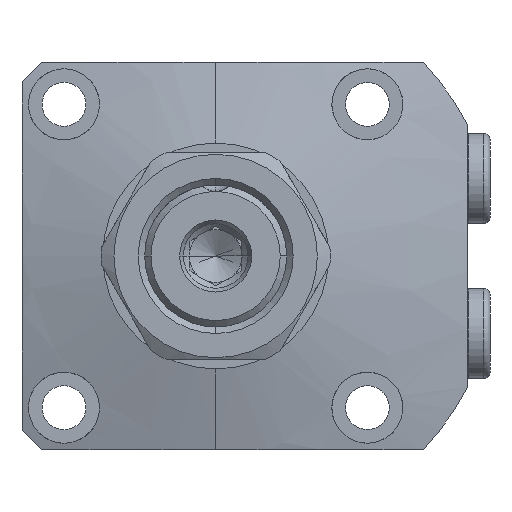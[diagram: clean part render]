
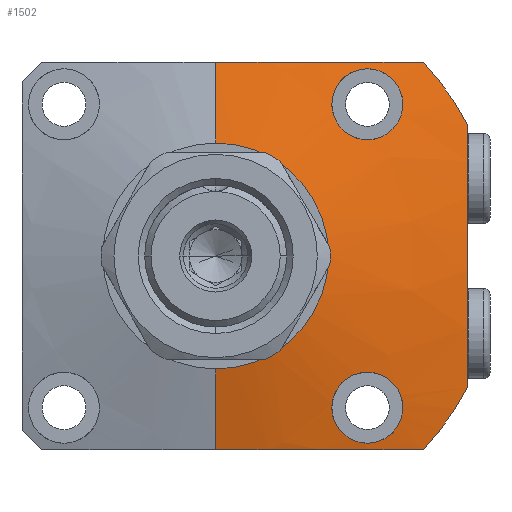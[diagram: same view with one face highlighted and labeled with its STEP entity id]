
A CAD part, left-side view. The second image highlights one B-rep face of the part: STEP entity #1502.
In plain terms, the highlighted conical face has half-angle 75 degrees and reference radius 17.5 mm.
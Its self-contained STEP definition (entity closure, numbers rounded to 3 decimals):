
#1087=FACE_BOUND('',#2114,.T.);
#1088=FACE_BOUND('',#2115,.T.);
#1089=FACE_BOUND('',#2116,.T.);
#1256=B_SPLINE_CURVE_WITH_KNOTS('',3,(#8673,#8674,#8675,#8676,#8677,#8678,
#8679,#8680,#8681,#8682),.UNSPECIFIED.,.F.,.F.,(4,2,2,2,4),(0.,0.25,0.5,
0.75,1.),.UNSPECIFIED.);
#1257=B_SPLINE_CURVE_WITH_KNOTS('',3,(#8691,#8692,#8693,#8694,#8695,#8696,
#8697,#8698,#8699,#8700),.UNSPECIFIED.,.F.,.F.,(4,2,2,2,4),(0.,0.25,0.5,
0.75,1.),.UNSPECIFIED.);
#1269=B_SPLINE_CURVE_WITH_KNOTS('',3,(#9100,#9101,#9102,#9103),
 .UNSPECIFIED.,.F.,.F.,(4,4),(0.,1.),.UNSPECIFIED.);
#1270=B_SPLINE_CURVE_WITH_KNOTS('',3,(#9104,#9105,#9106,#9107,#9108),
 .UNSPECIFIED.,.F.,.F.,(4,1,4),(0.,0.5,1.),.UNSPECIFIED.);
#1271=B_SPLINE_CURVE_WITH_KNOTS('',3,(#9109,#9110,#9111,#9112),
 .UNSPECIFIED.,.F.,.F.,(4,4),(0.,1.),.UNSPECIFIED.);
#1272=B_SPLINE_CURVE_WITH_KNOTS('',3,(#9113,#9114,#9115,#9116,#9117,#9118,
#9119,#9120,#9121,#9122),.UNSPECIFIED.,.F.,.F.,(4,2,2,2,4),(0.,0.25,0.5,
0.75,1.),.UNSPECIFIED.);
#1273=B_SPLINE_CURVE_WITH_KNOTS('',3,(#9123,#9124,#9125,#9126,#9127,#9128,
#9129,#9130,#9131,#9132),.UNSPECIFIED.,.F.,.F.,(4,2,2,2,4),(0.,0.25,0.5,
0.75,1.),.UNSPECIFIED.);
#1502=ADVANCED_FACE('',(#1087,#1088,#1089),#1602,.T.);
#1602=CONICAL_SURFACE('',#5766,17.5,75.);
#2114=EDGE_LOOP('',(#3685,#3686,#3687,#3688,#3689,#3690,#3691,#3692));
#2115=EDGE_LOOP('',(#3693,#3694));
#2116=EDGE_LOOP('',(#3695,#3696));
#2356=LINE('',#8770,#2584);
#2357=LINE('',#8799,#2585);
#2584=VECTOR('',#6821,1.);
#2585=VECTOR('',#6822,1.);
#3685=ORIENTED_EDGE('',*,*,#4749,.T.);
#3686=ORIENTED_EDGE('',*,*,#4873,.F.);
#3687=ORIENTED_EDGE('',*,*,#4755,.F.);
#3688=ORIENTED_EDGE('',*,*,#4874,.T.);
#3689=ORIENTED_EDGE('',*,*,#4841,.T.);
#3690=ORIENTED_EDGE('',*,*,#4875,.T.);
#3691=ORIENTED_EDGE('',*,*,#4871,.T.);
#3692=ORIENTED_EDGE('',*,*,#4876,.T.);
#3693=ORIENTED_EDGE('',*,*,#4877,.F.);
#3694=ORIENTED_EDGE('',*,*,#4724,.F.);
#3695=ORIENTED_EDGE('',*,*,#4878,.F.);
#3696=ORIENTED_EDGE('',*,*,#4728,.F.);
#4182=VERTEX_POINT('',#8672);
#4183=VERTEX_POINT('',#8683);
#4186=VERTEX_POINT('',#8690);
#4187=VERTEX_POINT('',#8701);
#4202=VERTEX_POINT('',#8768);
#4203=VERTEX_POINT('',#8769);
#4204=VERTEX_POINT('',#8771);
#4209=VERTEX_POINT('',#8798);
#4271=VERTEX_POINT('',#8998);
#4274=VERTEX_POINT('',#9003);
#4281=VERTEX_POINT('',#9094);
#4282=VERTEX_POINT('',#9096);
#4724=EDGE_CURVE('',#4182,#4183,#1256,.T.);
#4728=EDGE_CURVE('',#4186,#4187,#1257,.T.);
#4749=EDGE_CURVE('',#4204,#4202,#2356,.T.);
#4755=EDGE_CURVE('',#4209,#4203,#2357,.T.);
#4841=EDGE_CURVE('',#4271,#4274,#5190,.T.);
#4871=EDGE_CURVE('',#4282,#4281,#5212,.T.);
#4873=EDGE_CURVE('',#4203,#4202,#5213,.T.);
#4874=EDGE_CURVE('',#4209,#4271,#1269,.T.);
#4875=EDGE_CURVE('',#4274,#4282,#1270,.T.);
#4876=EDGE_CURVE('',#4281,#4204,#1271,.T.);
#4877=EDGE_CURVE('',#4183,#4182,#1272,.T.);
#4878=EDGE_CURVE('',#4187,#4186,#1273,.T.);
#5190=CIRCLE('',#5717,44.);
#5212=CIRCLE('',#5763,44.);
#5213=CIRCLE('',#5765,17.5);
#5717=AXIS2_PLACEMENT_3D('',#9004,#7009,#7010);
#5763=AXIS2_PLACEMENT_3D('',#9095,#7108,#7109);
#5765=AXIS2_PLACEMENT_3D('',#9099,#7113,#7114);
#5766=AXIS2_PLACEMENT_3D('',#9133,#7115,#7116);
#6821=DIRECTION('',(-0.259,0.,-0.966));
#6822=DIRECTION('',(-0.259,0.,0.966));
#7009=DIRECTION('',(-1.,0.,0.));
#7010=DIRECTION('',(0.,0.,1.));
#7108=DIRECTION('',(-1.,0.,0.));
#7109=DIRECTION('',(0.,0.,1.));
#7113=DIRECTION('',(-1.,0.,0.));
#7114=DIRECTION('',(0.,0.,1.));
#7115=DIRECTION('',(1.,0.,0.));
#7116=DIRECTION('',(0.,0.,1.));
#8672=CARTESIAN_POINT('',(-26.757,-23.5,18.));
#8673=CARTESIAN_POINT('',(-26.757,-23.5,18.));
#8674=CARTESIAN_POINT('',(-26.45,-24.946,18.));
#8675=CARTESIAN_POINT('',(-26.054,-26.334,18.579));
#8676=CARTESIAN_POINT('',(-25.305,-28.355,20.555));
#8677=CARTESIAN_POINT('',(-24.953,-28.972,21.961));
#8678=CARTESIAN_POINT('',(-24.458,-29.026,24.83));
#8679=CARTESIAN_POINT('',(-24.314,-28.455,26.301));
#8680=CARTESIAN_POINT('',(-24.307,-26.405,28.395));
#8681=CARTESIAN_POINT('',(-24.442,-24.958,29.));
#8682=CARTESIAN_POINT('',(-24.688,-23.5,29.));
#8683=CARTESIAN_POINT('',(-24.688,-23.5,29.));
#8690=CARTESIAN_POINT('',(-24.688,-23.5,-29.));
#8691=CARTESIAN_POINT('',(-24.688,-23.5,-29.));
#8692=CARTESIAN_POINT('',(-24.442,-24.957,-29.));
#8693=CARTESIAN_POINT('',(-24.307,-26.404,-28.393));
#8694=CARTESIAN_POINT('',(-24.314,-28.446,-26.313));
#8695=CARTESIAN_POINT('',(-24.456,-29.025,-24.846));
#8696=CARTESIAN_POINT('',(-24.952,-28.973,-21.959));
#8697=CARTESIAN_POINT('',(-25.304,-28.36,-20.559));
#8698=CARTESIAN_POINT('',(-26.055,-26.331,-18.576));
#8699=CARTESIAN_POINT('',(-26.45,-24.945,-18.));
#8700=CARTESIAN_POINT('',(-26.757,-23.5,-18.));
#8701=CARTESIAN_POINT('',(-26.757,-23.5,-18.));
#8768=CARTESIAN_POINT('',(-30.,0.,17.5));
#8769=CARTESIAN_POINT('',(-30.,0.,-17.5));
#8770=CARTESIAN_POINT('',(-30.,0.,17.5));
#8771=CARTESIAN_POINT('',(-26.651,0.,30.));
#8798=CARTESIAN_POINT('',(-26.651,0.,-30.));
#8799=CARTESIAN_POINT('',(-30.,0.,-17.5));
#8998=CARTESIAN_POINT('',(-22.899,-32.187,-30.));
#9003=CARTESIAN_POINT('',(-22.899,-39.,-20.372));
#9004=CARTESIAN_POINT('',(-22.899,0.,0.));
#9094=CARTESIAN_POINT('',(-22.899,-32.187,30.));
#9095=CARTESIAN_POINT('',(-22.899,0.,0.));
#9096=CARTESIAN_POINT('',(-22.899,-39.,20.372));
#9099=CARTESIAN_POINT('',(-30.,0.,0.));
#9100=CARTESIAN_POINT('',(-26.651,0.,-30.));
#9101=CARTESIAN_POINT('',(-26.651,-10.875,-30.));
#9102=CARTESIAN_POINT('',(-24.983,-21.555,-30.));
#9103=CARTESIAN_POINT('',(-22.899,-32.187,-30.));
#9104=CARTESIAN_POINT('',(-22.899,-39.,-20.372));
#9105=CARTESIAN_POINT('',(-23.742,-39.,-13.581));
#9106=CARTESIAN_POINT('',(-24.736,-39.,0.));
#9107=CARTESIAN_POINT('',(-23.742,-39.,13.581));
#9108=CARTESIAN_POINT('',(-22.899,-39.,20.372));
#9109=CARTESIAN_POINT('',(-22.899,-32.187,30.));
#9110=CARTESIAN_POINT('',(-24.983,-21.555,30.));
#9111=CARTESIAN_POINT('',(-26.651,-10.875,30.));
#9112=CARTESIAN_POINT('',(-26.651,0.,30.));
#9113=CARTESIAN_POINT('',(-24.688,-23.5,29.));
#9114=CARTESIAN_POINT('',(-24.934,-22.04,29.));
#9115=CARTESIAN_POINT('',(-25.282,-20.637,28.404));
#9116=CARTESIAN_POINT('',(-26.029,-18.626,26.414));
#9117=CARTESIAN_POINT('',(-26.431,-18.024,25.014));
#9118=CARTESIAN_POINT('',(-27.046,-17.978,22.164));
#9119=CARTESIAN_POINT('',(-27.253,-18.546,20.696));
#9120=CARTESIAN_POINT('',(-27.262,-20.603,18.599));
#9121=CARTESIAN_POINT('',(-27.065,-22.052,18.));
#9122=CARTESIAN_POINT('',(-26.757,-23.5,18.));
#9123=CARTESIAN_POINT('',(-26.757,-23.5,-18.));
#9124=CARTESIAN_POINT('',(-27.065,-22.052,-18.));
#9125=CARTESIAN_POINT('',(-27.261,-20.605,-18.601));
#9126=CARTESIAN_POINT('',(-27.254,-18.556,-20.682));
#9127=CARTESIAN_POINT('',(-27.049,-17.979,-22.146));
#9128=CARTESIAN_POINT('',(-26.43,-18.022,-25.02));
#9129=CARTESIAN_POINT('',(-26.03,-18.622,-26.411));
#9130=CARTESIAN_POINT('',(-25.28,-20.641,-28.408));
#9131=CARTESIAN_POINT('',(-24.934,-22.04,-29.));
#9132=CARTESIAN_POINT('',(-24.688,-23.5,-29.));
#9133=CARTESIAN_POINT('',(-30.,0.,0.));
